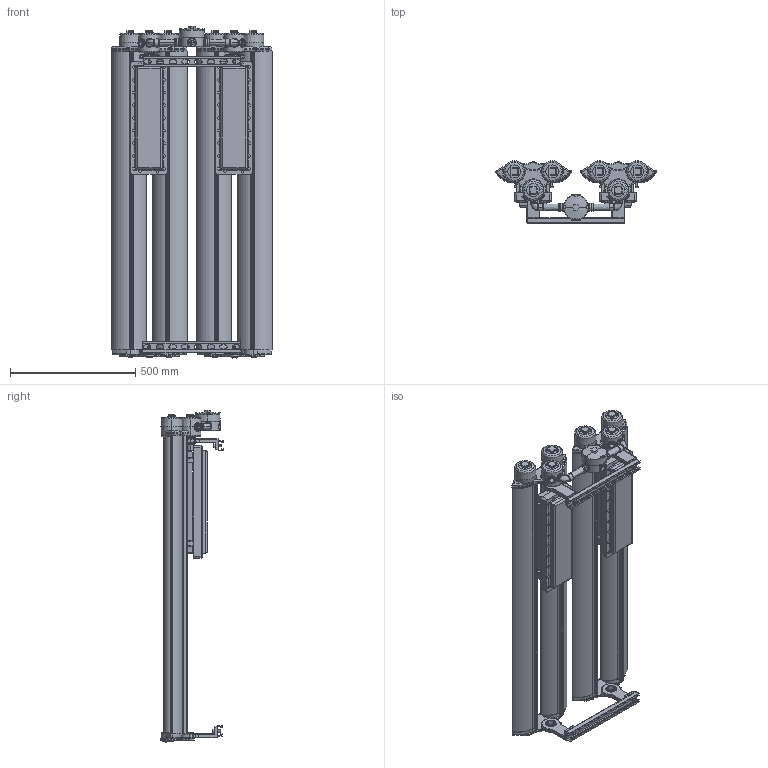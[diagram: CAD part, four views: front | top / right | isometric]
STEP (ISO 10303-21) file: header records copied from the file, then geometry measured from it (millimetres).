
FILE_DESCRIPTION (( 'STEP AP214' ), '1' );
FILE_NAME ('EPL-48-4L-SFC.STEP', '2015-03-10T14:54:49', ( '' ), ( '' ), 'SwSTEP 2.0', 'SolidWorks 2015', '' );
FILE_SCHEMA (( 'AUTOMOTIVE_DESIGN' ));
Length unit declared in the file: inch
Products named in the file (18): EPL-48-4l 2 ballast boxes_1; EPL-48-2 light no ballast_1; Spider End_1_1; Hinge mt._1_1; connect 2_1_1; Glass tube4ft_1_1; connect 1_1_1; Update Reflector 4ft_1_1; quarter screw_1_1; End Support_1; End Support_1_1_2; End Support_1_1_3; End Support_1_1; EPL-48-4L-SFC; unitstrut_1; ballast; Copy of Part13^EPL-48-4l 2 ballast boxes SFC; Hex Bolt_AI_HBOLT 0.3750-16x1x1-N
Assembly tree (30 placements, depth 4):
  EPL-48-4L-SFC
    EPL-48-2 light no ballast_1  x2
      End Support_1
        End Support_1_1
        End Support_1_1_3
        End Support_1_1_2
      quarter screw_1_1
      Update Reflector 4ft_1_1
      connect 1_1_1
      Glass tube4ft_1_1
      connect 2_1_1
      Hinge mt._1_1
      Spider End_1_1
    EPL-48-4l 2 ballast boxes_1
    Hex Bolt_AI_HBOLT 0.3750-16x1x1-N  x4
    Copy of Part13^EPL-48-4l 2 ballast boxes SFC
    ballast  x2
    unitstrut_1  x2
Bounding box: 644.1 x 250.68 x 1327.45 mm (x, y, z)
Volume: 21278533.8 mm3; surface area: 4121528 mm2
Topology: 42 solids, 46 shells, 1933 faces, 5217 edges, 3318 vertices
Faces by surface type: plane 776, cylinder 577, torus 306, cone 126, bspline 96, sphere 52
Entity records: 48302 total; most frequent: CARTESIAN_POINT 27021, ORIENTED_EDGE 4251, DIRECTION 4087, EDGE_CURVE 2308, VERTEX_POINT 1505, AXIS2_PLACEMENT_3D 1451, LINE 1185, VECTOR 1185
